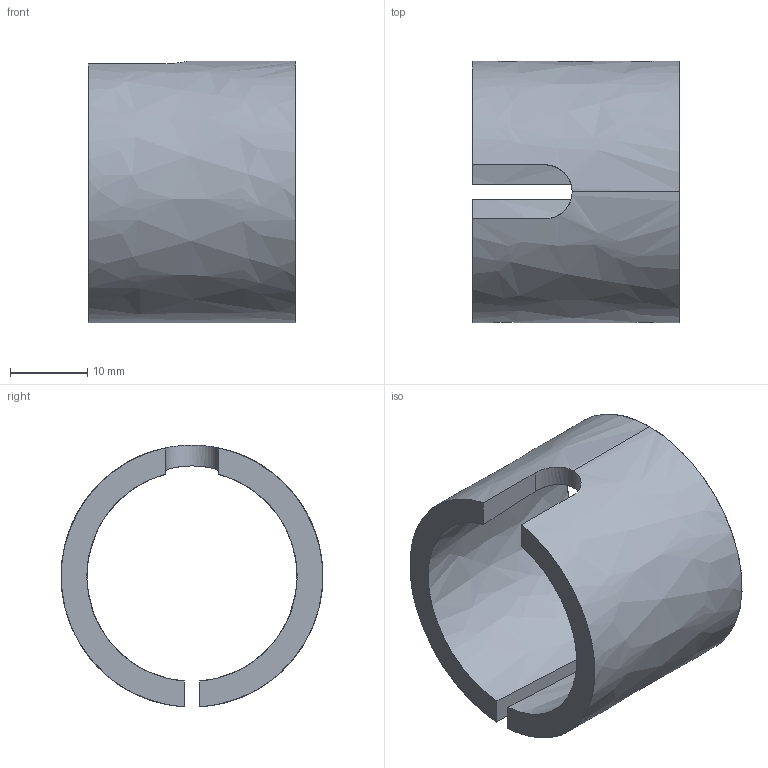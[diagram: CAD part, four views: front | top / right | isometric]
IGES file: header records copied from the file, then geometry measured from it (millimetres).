
Start section: Comment
Global section: file name: JF6H53_Sleeve.igs; native system:  By Spatial Corp.; preprocessor: XPlus GENERIC/IGES 3.0; author: Author; organization: Title; date: 20080526.100816; units: millimetre
Bounding box: 27 x 34 x 33.97 mm (x, y, z)
Surface area: 5761.6 mm2 (no closed solid volume)
Topology: 0 solids, 0 shells, 11 faces, 64 edges, 64 vertices
Faces by surface type: bspline 11
